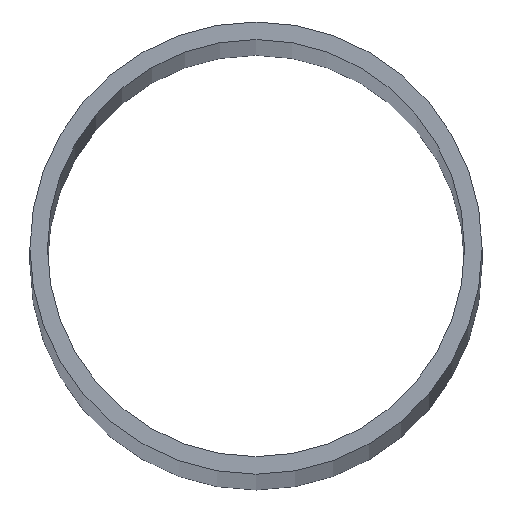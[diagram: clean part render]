
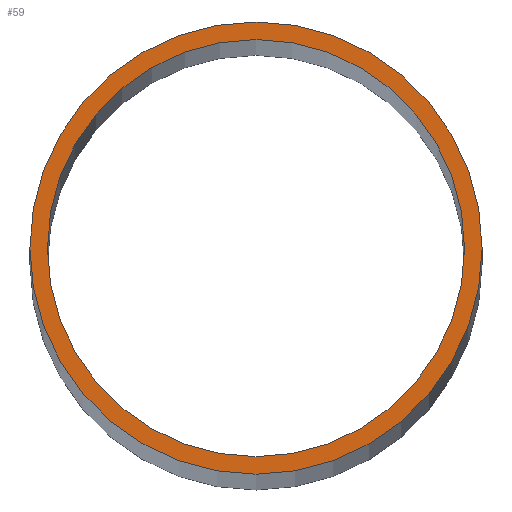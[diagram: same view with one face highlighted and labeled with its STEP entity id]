
A CAD part, top view. The second image highlights one B-rep face of the part: STEP entity #59.
In plain terms, the highlighted planar face has unit normal (0, 0, 1).
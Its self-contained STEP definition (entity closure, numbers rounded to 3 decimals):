
#12=PLANE($,#70);
#16=FACE_BOUND($,#26,.T.);
#17=FACE_BOUND($,#27,.T.);
#26=EDGE_LOOP($,(#46));
#27=EDGE_LOOP($,(#47));
#30=CIRCLE($,#65,115.3);
#32=CIRCLE($,#68,125.);
#34=VERTEX_POINT($,#92);
#36=VERTEX_POINT($,#97);
#38=EDGE_CURVE($,#34,#34,#30,.T.);
#40=EDGE_CURVE($,#36,#36,#32,.T.);
#46=ORIENTED_EDGE($,*,*,#38,.T.);
#47=ORIENTED_EDGE($,*,*,#40,.F.);
#59=ADVANCED_FACE($,(#16,#17),#12,.F.);
#65=AXIS2_PLACEMENT_3D($,#93,#76,#77);
#68=AXIS2_PLACEMENT_3D($,#98,#82,#83);
#70=AXIS2_PLACEMENT_3D($,#101,#86,#87);
#76=DIRECTION('center_axis',(0.,0.,-1.));
#77=DIRECTION('ref_axis',(-1.,0.,0.));
#82=DIRECTION('center_axis',(0.,0.,-1.));
#83=DIRECTION('ref_axis',(-1.,0.,0.));
#86=DIRECTION('center_axis',(0.,0.,-1.));
#87=DIRECTION('ref_axis',(-1.,0.,0.));
#92=CARTESIAN_POINT('',(115.3,0.,5000.));
#93=CARTESIAN_POINT('Origin',(0.,0.,5000.));
#97=CARTESIAN_POINT('',(125.,0.,5000.));
#98=CARTESIAN_POINT('Origin',(0.,0.,5000.));
#101=CARTESIAN_POINT('Origin',(0.,0.,5000.));
